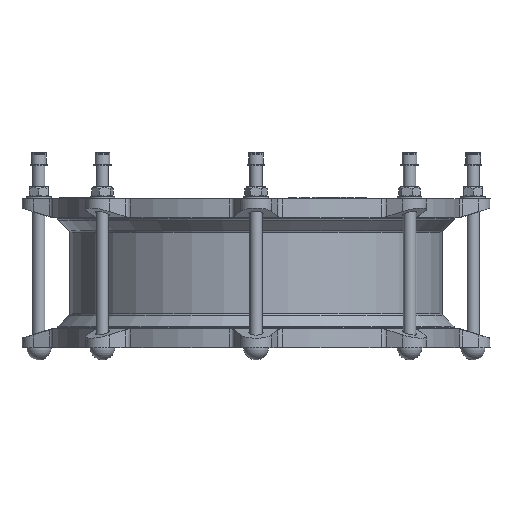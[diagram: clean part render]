
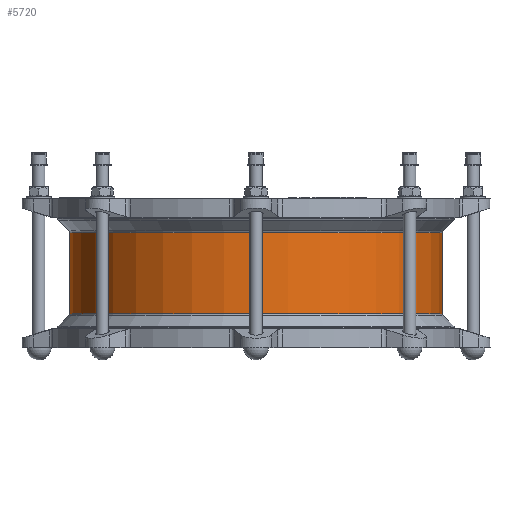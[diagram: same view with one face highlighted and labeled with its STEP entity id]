
A CAD part, front view. The second image highlights one B-rep face of the part: STEP entity #5720.
In plain terms, the highlighted cylindrical face has radius 211 mm (diameter 422 mm), a full revolution.
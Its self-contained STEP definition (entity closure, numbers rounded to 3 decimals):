
#5720=ADVANCED_FACE('',(#10713,#10715),#10717,.T.);
#10713=FACE_OUTER_BOUND('',#10714,.T.);
#10714=EDGE_LOOP('',(#15833));
#10715=FACE_OUTER_BOUND('',#10716,.T.);
#10716=EDGE_LOOP('',(#15834));
#10717=CYLINDRICAL_SURFACE('',#10718,211.);
#10718=AXIS2_PLACEMENT_3D('',#10719,#10720,#10721);
#10719=CARTESIAN_POINT('',(0.,0.,47.257));
#10720=DIRECTION('',(0.,0.,-1.));
#10721=DIRECTION('',(0.,1.,0.));
#15833=ORIENTED_EDGE('',*,*,#18049,.T.);
#15834=ORIENTED_EDGE('',*,*,#18050,.F.);
#18049=EDGE_CURVE('',#21091,#21091,#21092,.T.);
#18050=EDGE_CURVE('',#21093,#21093,#21094,.T.);
#21091=VERTEX_POINT('',#32522);
#21092=CIRCLE('',#32523,211.);
#21093=VERTEX_POINT('',#32527);
#21094=CIRCLE('',#32528,211.);
#32522=CARTESIAN_POINT('',(0.,211.,46.015));
#32523=AXIS2_PLACEMENT_3D('',#32524,#32525,#32526);
#32524=CARTESIAN_POINT('',(0.,0.,46.015));
#32525=DIRECTION('',(0.,0.,-1.));
#32526=DIRECTION('',(0.,1.,0.));
#32527=CARTESIAN_POINT('',(0.,211.,-46.015));
#32528=AXIS2_PLACEMENT_3D('',#32529,#32530,#32531);
#32529=CARTESIAN_POINT('',(0.,0.,-46.015));
#32530=DIRECTION('',(0.,0.,-1.));
#32531=DIRECTION('',(0.,1.,0.));
